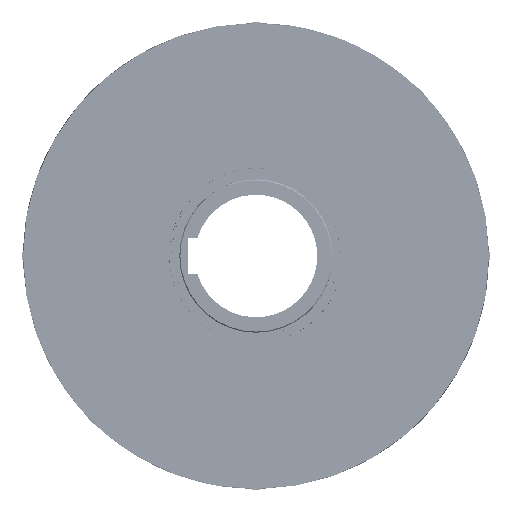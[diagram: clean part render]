
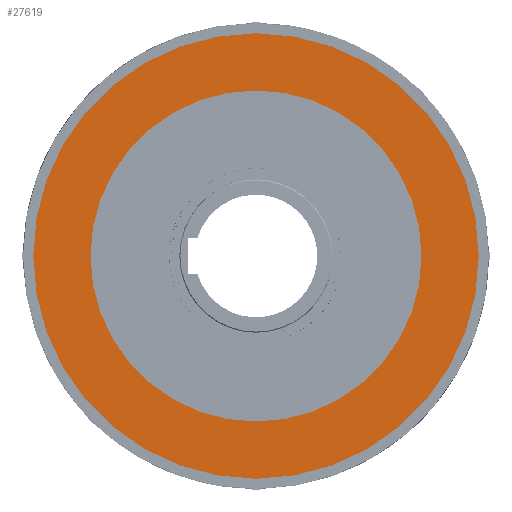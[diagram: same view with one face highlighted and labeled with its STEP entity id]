
A CAD part, left-side view. The second image highlights one B-rep face of the part: STEP entity #27619.
In plain terms, the highlighted planar face has unit normal (-1, 0, 0).
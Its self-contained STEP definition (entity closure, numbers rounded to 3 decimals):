
#916=FACE_BOUND('',#4910,.T.);
#3292=FACE_OUTER_BOUND('',#4909,.T.);
#4909=EDGE_LOOP('',(#20206));
#4910=EDGE_LOOP('',(#20207));
#6935=CIRCLE('',#29677,81.);
#6936=CIRCLE('',#29679,109.);
#10965=VERTEX_POINT('',#100694);
#10966=VERTEX_POINT('',#100698);
#14362=EDGE_CURVE('',#10965,#10965,#6935,.T.);
#14363=EDGE_CURVE('',#10966,#10966,#6936,.T.);
#20206=ORIENTED_EDGE('',*,*,#14363,.F.);
#20207=ORIENTED_EDGE('',*,*,#14362,.T.);
#25802=PLANE('',#29678);
#27619=ADVANCED_FACE('',(#3292,#916),#25802,.T.);
#29677=AXIS2_PLACEMENT_3D('',#100696,#34221,#34222);
#29678=AXIS2_PLACEMENT_3D('',#100697,#34223,#34224);
#29679=AXIS2_PLACEMENT_3D('',#100699,#34225,#34226);
#34221=DIRECTION('center_axis',(1.,0.,0.));
#34222=DIRECTION('ref_axis',(0.,1.,0.));
#34223=DIRECTION('center_axis',(-1.,0.,0.));
#34224=DIRECTION('ref_axis',(0.,0.,1.));
#34225=DIRECTION('center_axis',(1.,0.,0.));
#34226=DIRECTION('ref_axis',(0.,1.,0.));
#100694=CARTESIAN_POINT('',(-55.,-81.,0.));
#100696=CARTESIAN_POINT('Origin',(-55.,0.,0.));
#100697=CARTESIAN_POINT('Origin',(-55.,95.,0.));
#100698=CARTESIAN_POINT('',(-55.,-109.,0.));
#100699=CARTESIAN_POINT('Origin',(-55.,0.,0.));
